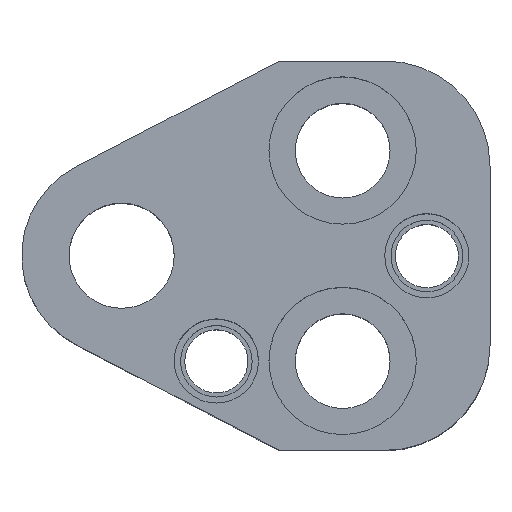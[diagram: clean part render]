
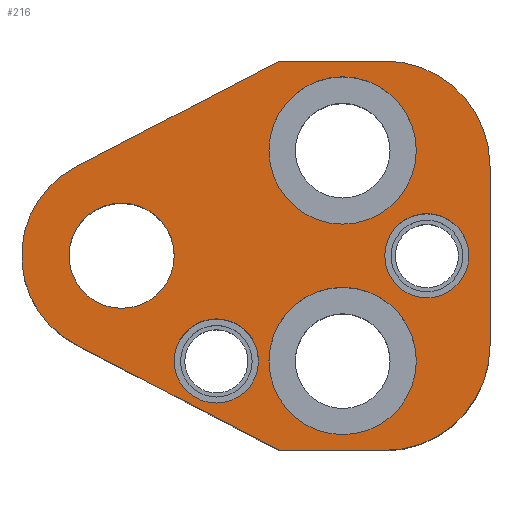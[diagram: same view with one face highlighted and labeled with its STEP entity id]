
A CAD part, top view. The second image highlights one B-rep face of the part: STEP entity #216.
In plain terms, the highlighted planar face has unit normal (0, 0, 1).
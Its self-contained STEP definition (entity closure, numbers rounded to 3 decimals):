
#104=FACE_BOUND('',#309,.T.);
#105=FACE_BOUND('',#310,.T.);
#106=FACE_BOUND('',#311,.T.);
#107=FACE_BOUND('',#312,.T.);
#108=FACE_BOUND('',#313,.T.);
#109=FACE_BOUND('',#314,.T.);
#148=CIRCLE('',#832,10.);
#150=CIRCLE('',#836,10.);
#160=CIRCLE('',#852,7.);
#162=CIRCLE('',#855,7.);
#164=CIRCLE('',#859,7.);
#166=CIRCLE('',#862,7.);
#168=CIRCLE('',#866,9.5);
#169=CIRCLE('',#867,4.);
#170=CIRCLE('',#868,4.);
#171=CIRCLE('',#869,4.);
#172=CIRCLE('',#870,4.);
#173=CIRCLE('',#871,5.);
#174=CIRCLE('',#872,5.);
#216=ADVANCED_FACE('',(#104,#105,#106,#107,#108,#109),#248,.T.);
#248=PLANE('',#873);
#309=EDGE_LOOP('',(#409,#410,#411,#412,#413,#414,#415,#416));
#310=EDGE_LOOP('',(#417,#418));
#311=EDGE_LOOP('',(#419,#420));
#312=EDGE_LOOP('',(#421,#422));
#313=EDGE_LOOP('',(#423,#424));
#314=EDGE_LOOP('',(#425,#426));
#409=ORIENTED_EDGE('',*,*,#666,.T.);
#410=ORIENTED_EDGE('',*,*,#627,.T.);
#411=ORIENTED_EDGE('',*,*,#631,.T.);
#412=ORIENTED_EDGE('',*,*,#634,.T.);
#413=ORIENTED_EDGE('',*,*,#637,.T.);
#414=ORIENTED_EDGE('',*,*,#640,.T.);
#415=ORIENTED_EDGE('',*,*,#667,.T.);
#416=ORIENTED_EDGE('',*,*,#668,.T.);
#417=ORIENTED_EDGE('',*,*,#669,.F.);
#418=ORIENTED_EDGE('',*,*,#670,.F.);
#419=ORIENTED_EDGE('',*,*,#671,.F.);
#420=ORIENTED_EDGE('',*,*,#672,.F.);
#421=ORIENTED_EDGE('',*,*,#664,.F.);
#422=ORIENTED_EDGE('',*,*,#660,.F.);
#423=ORIENTED_EDGE('',*,*,#658,.F.);
#424=ORIENTED_EDGE('',*,*,#654,.F.);
#425=ORIENTED_EDGE('',*,*,#673,.T.);
#426=ORIENTED_EDGE('',*,*,#674,.T.);
#558=VERTEX_POINT('',#1171);
#559=VERTEX_POINT('',#1173);
#562=VERTEX_POINT('',#1180);
#564=VERTEX_POINT('',#1186);
#566=VERTEX_POINT('',#1192);
#568=VERTEX_POINT('',#1198);
#577=VERTEX_POINT('',#1227);
#578=VERTEX_POINT('',#1228);
#581=VERTEX_POINT('',#1240);
#582=VERTEX_POINT('',#1241);
#585=VERTEX_POINT('',#1253);
#586=VERTEX_POINT('',#1255);
#587=VERTEX_POINT('',#1258);
#588=VERTEX_POINT('',#1259);
#589=VERTEX_POINT('',#1262);
#590=VERTEX_POINT('',#1263);
#591=VERTEX_POINT('',#1266);
#592=VERTEX_POINT('',#1267);
#627=EDGE_CURVE('',#559,#558,#731,.T.);
#631=EDGE_CURVE('',#558,#562,#148,.T.);
#634=EDGE_CURVE('',#562,#564,#736,.T.);
#637=EDGE_CURVE('',#564,#566,#150,.T.);
#640=EDGE_CURVE('',#566,#568,#740,.T.);
#654=EDGE_CURVE('',#577,#578,#160,.T.);
#658=EDGE_CURVE('',#578,#577,#162,.T.);
#660=EDGE_CURVE('',#581,#582,#164,.T.);
#664=EDGE_CURVE('',#582,#581,#166,.T.);
#666=EDGE_CURVE('',#585,#559,#750,.T.);
#667=EDGE_CURVE('',#568,#586,#751,.T.);
#668=EDGE_CURVE('',#586,#585,#168,.T.);
#669=EDGE_CURVE('',#587,#588,#169,.T.);
#670=EDGE_CURVE('',#588,#587,#170,.T.);
#671=EDGE_CURVE('',#589,#590,#171,.T.);
#672=EDGE_CURVE('',#590,#589,#172,.T.);
#673=EDGE_CURVE('',#591,#592,#173,.T.);
#674=EDGE_CURVE('',#592,#591,#174,.T.);
#731=LINE('',#1172,#781);
#736=LINE('',#1187,#786);
#740=LINE('',#1199,#790);
#750=LINE('',#1252,#800);
#751=LINE('',#1254,#801);
#781=VECTOR('',#929,1.);
#786=VECTOR('',#942,1.);
#790=VECTOR('',#954,1.);
#800=VECTOR('',#1018,1.);
#801=VECTOR('',#1019,1.);
#832=AXIS2_PLACEMENT_3D('',#1181,#935,#936);
#836=AXIS2_PLACEMENT_3D('',#1193,#947,#948);
#852=AXIS2_PLACEMENT_3D('',#1226,#986,#987);
#855=AXIS2_PLACEMENT_3D('',#1235,#994,#995);
#859=AXIS2_PLACEMENT_3D('',#1239,#1002,#1003);
#862=AXIS2_PLACEMENT_3D('',#1248,#1010,#1011);
#866=AXIS2_PLACEMENT_3D('',#1256,#1020,#1021);
#867=AXIS2_PLACEMENT_3D('',#1257,#1022,#1023);
#868=AXIS2_PLACEMENT_3D('',#1260,#1024,#1025);
#869=AXIS2_PLACEMENT_3D('',#1261,#1026,#1027);
#870=AXIS2_PLACEMENT_3D('',#1264,#1028,#1029);
#871=AXIS2_PLACEMENT_3D('',#1265,#1030,#1031);
#872=AXIS2_PLACEMENT_3D('',#1268,#1032,#1033);
#873=AXIS2_PLACEMENT_3D('',#1269,#1034,#1035);
#929=DIRECTION('',(1.,0.,0.));
#935=DIRECTION('',(0.,0.,1.));
#936=DIRECTION('',(-0.707,0.707,0.));
#942=DIRECTION('',(0.,1.,0.));
#947=DIRECTION('',(0.,0.,1.));
#948=DIRECTION('',(-0.707,-0.707,0.));
#954=DIRECTION('',(-1.,0.,0.));
#986=DIRECTION('',(0.,0.,1.));
#987=DIRECTION('',(-1.,0.,0.));
#994=DIRECTION('',(0.,0.,1.));
#995=DIRECTION('',(1.,0.,0.));
#1002=DIRECTION('',(0.,0.,1.));
#1003=DIRECTION('',(-1.,0.,0.));
#1010=DIRECTION('',(0.,0.,1.));
#1011=DIRECTION('',(1.,0.,0.));
#1018=DIRECTION('',(0.887,-0.461,0.));
#1019=DIRECTION('',(-0.887,-0.461,0.));
#1020=DIRECTION('',(0.,0.,1.));
#1021=DIRECTION('',(1.,0.,0.));
#1022=DIRECTION('',(0.,0.,1.));
#1023=DIRECTION('',(1.,0.,0.));
#1024=DIRECTION('',(0.,0.,1.));
#1025=DIRECTION('',(-1.,0.,0.));
#1026=DIRECTION('',(0.,0.,1.));
#1027=DIRECTION('',(1.,0.,0.));
#1028=DIRECTION('',(0.,0.,1.));
#1029=DIRECTION('',(-1.,0.,0.));
#1030=DIRECTION('',(0.,0.,-1.));
#1031=DIRECTION('',(0.,-1.,0.));
#1032=DIRECTION('',(0.,0.,-1.));
#1033=DIRECTION('',(0.,1.,0.));
#1034=DIRECTION('',(0.,0.,1.));
#1035=DIRECTION('',(0.887,-0.461,0.));
#1171=CARTESIAN_POINT('',(25.,-18.5,30.));
#1172=CARTESIAN_POINT('',(15.,-18.5,30.));
#1173=CARTESIAN_POINT('',(15.,-18.5,30.));
#1180=CARTESIAN_POINT('',(35.,-8.5,30.));
#1181=CARTESIAN_POINT('',(25.,-8.5,30.));
#1186=CARTESIAN_POINT('',(35.,8.5,30.));
#1187=CARTESIAN_POINT('',(35.,8.5,30.));
#1192=CARTESIAN_POINT('',(25.,18.5,30.));
#1193=CARTESIAN_POINT('',(25.,8.5,30.));
#1198=CARTESIAN_POINT('',(15.,18.5,30.));
#1199=CARTESIAN_POINT('',(15.,18.5,30.));
#1226=CARTESIAN_POINT('',(21.,10.,30.));
#1227=CARTESIAN_POINT('',(21.,3.,30.));
#1228=CARTESIAN_POINT('',(21.,17.,30.));
#1235=CARTESIAN_POINT('',(21.,10.,30.));
#1239=CARTESIAN_POINT('',(21.,-10.,30.));
#1240=CARTESIAN_POINT('',(21.,-17.,30.));
#1241=CARTESIAN_POINT('',(21.,-3.,30.));
#1248=CARTESIAN_POINT('',(21.,-10.,30.));
#1252=CARTESIAN_POINT('',(15.,-18.5,30.));
#1253=CARTESIAN_POINT('',(-4.38,-8.43,30.));
#1254=CARTESIAN_POINT('',(15.,18.5,30.));
#1255=CARTESIAN_POINT('',(-4.38,8.43,30.));
#1256=CARTESIAN_POINT('',(0.,0.,30.));
#1257=CARTESIAN_POINT('',(29.,0.,30.));
#1258=CARTESIAN_POINT('',(29.,4.,30.));
#1259=CARTESIAN_POINT('',(29.,-4.,30.));
#1260=CARTESIAN_POINT('',(29.,0.,30.));
#1261=CARTESIAN_POINT('',(9.,-10.,30.));
#1262=CARTESIAN_POINT('',(9.,-6.,30.));
#1263=CARTESIAN_POINT('',(9.,-14.,30.));
#1264=CARTESIAN_POINT('',(9.,-10.,30.));
#1265=CARTESIAN_POINT('',(0.,0.,30.));
#1266=CARTESIAN_POINT('',(-5.,0.,30.));
#1267=CARTESIAN_POINT('',(5.,0.,30.));
#1268=CARTESIAN_POINT('',(0.,0.,30.));
#1269=CARTESIAN_POINT('',(-4.38,-8.43,30.));
